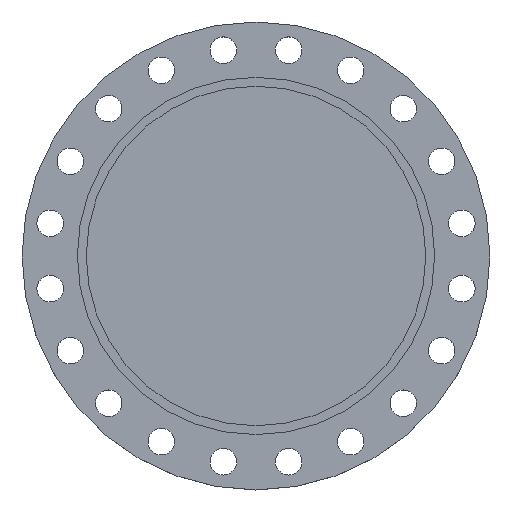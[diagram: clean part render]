
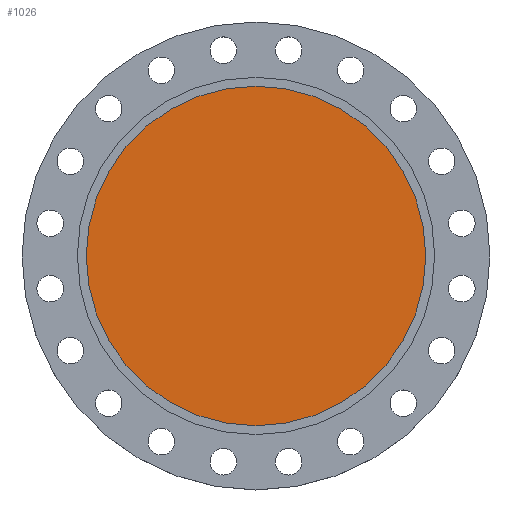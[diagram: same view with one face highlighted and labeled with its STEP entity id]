
A CAD part, top view. The second image highlights one B-rep face of the part: STEP entity #1026.
In plain terms, the highlighted planar face has unit normal (0, 0, 1).
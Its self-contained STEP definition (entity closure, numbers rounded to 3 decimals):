
#43 = AXIS2_PLACEMENT_3D ( 'NONE', #462, #1080, #1609 ) ;
#96 = DIRECTION ( 'NONE',  ( 0., 0., -1. ) ) ;
#427 = CARTESIAN_POINT ( 'NONE',  ( 0., 0., -5.5 ) ) ;
#462 = CARTESIAN_POINT ( 'NONE',  ( 248.5, 0., -5.5 ) ) ;
#519 = EDGE_CURVE ( 'NONE', #787, #1405, #1641, .T. ) ;
#664 = DIRECTION ( 'NONE',  ( -1., 0., 0. ) ) ;
#787 = VERTEX_POINT ( 'NONE', #798 ) ;
#798 = CARTESIAN_POINT ( 'NONE',  ( -248.5, 0., -5.5 ) ) ;
#903 = ORIENTED_EDGE ( 'NONE', *, *, #519, .F. ) ;
#1026 = ADVANCED_FACE ( 'NONE', ( #1226 ), #1713, .T. ) ;
#1037 = DIRECTION ( 'NONE',  ( 0., 0., -1. ) ) ;
#1064 = AXIS2_PLACEMENT_3D ( 'NONE', #1400, #96, #664 ) ;
#1075 = CARTESIAN_POINT ( 'NONE',  ( 248.5, 0., -5.5 ) ) ;
#1080 = DIRECTION ( 'NONE',  ( 0., 0., 1. ) ) ;
#1226 = FACE_OUTER_BOUND ( 'NONE', #1704, .T. ) ;
#1269 = AXIS2_PLACEMENT_3D ( 'NONE', #427, #1037, #1582 ) ;
#1277 = CIRCLE ( 'NONE', #1269, 248.5 ) ;
#1334 = EDGE_CURVE ( 'NONE', #1405, #787, #1277, .T. ) ;
#1400 = CARTESIAN_POINT ( 'NONE',  ( 0., 0., -5.5 ) ) ;
#1405 = VERTEX_POINT ( 'NONE', #1075 ) ;
#1477 = ORIENTED_EDGE ( 'NONE', *, *, #1334, .F. ) ;
#1582 = DIRECTION ( 'NONE',  ( -1., 0., 0. ) ) ;
#1609 = DIRECTION ( 'NONE',  ( 1., 0., 0. ) ) ;
#1641 = CIRCLE ( 'NONE', #1064, 248.5 ) ;
#1704 = EDGE_LOOP ( 'NONE', ( #903, #1477 ) ) ;
#1713 = PLANE ( 'NONE',  #43 ) ;
